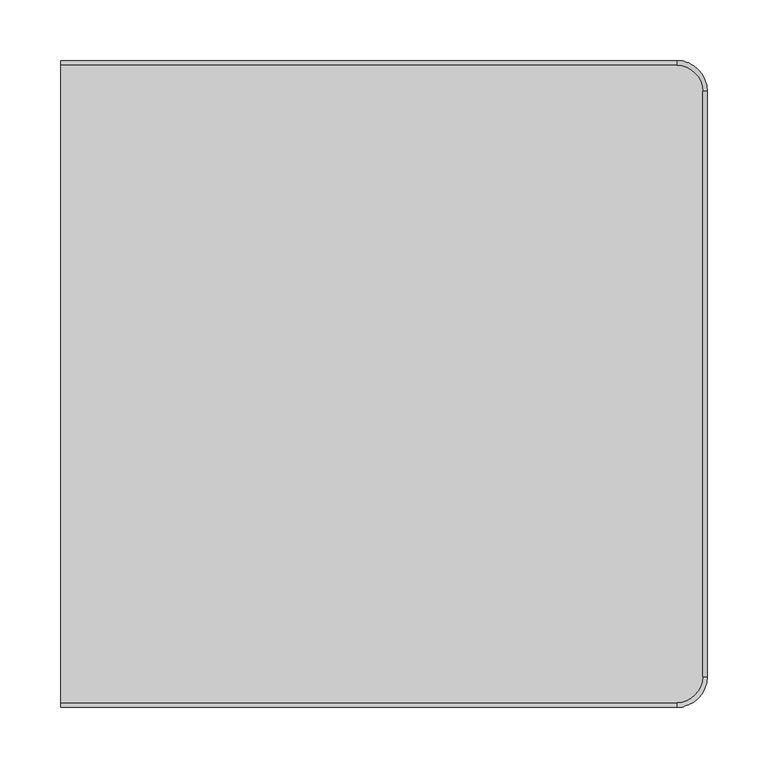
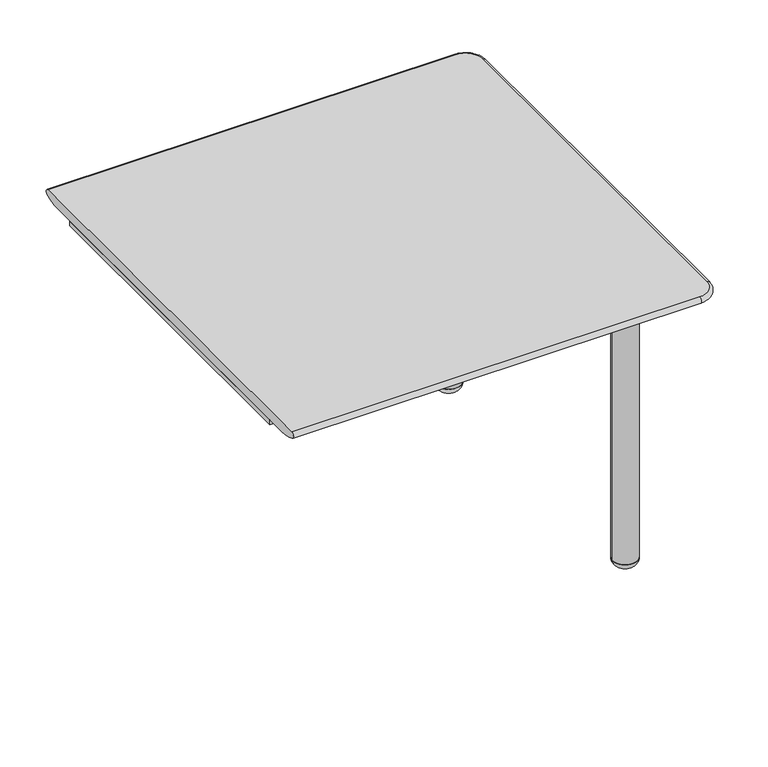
"""IFC4 building model written with IfcOpenShell, lengths in millimetres: furniture geometry, Integra - Coastal Collection - Tide Metal - System Table : Tide - End Table."""

import ifcopenshell
import ifcopenshell.guid

model = None  # the IFC model being written
_history = None  # IfcOwnerHistory: only IFC2X3 demands one
_inside = {}  # id of a spatial element -> (the spatial element, [elements in it])
_under = {}  # id of a project, library or spatial element -> (it, [spatial elements below it])
_declared = {}  # id of a project -> (the project, [libraries it declares])
_typed = {}  # id of a type object -> (the type object, [elements of that type])
_made_of = {}  # id of a material, layer set ... -> (it, [elements and type objects made of it])


def new_model(schema):
    """Start an empty IFC model of exactly this schema.

    Asked for "IFC4X3", IfcOpenShell would pick the latest addendum, in which some entities
    have other attributes; the version numbers below select the first issue.
    IFC2X3 requires an IfcOwnerHistory on every rooted entity: one is made here for all.
    """
    global model, _history
    if schema == "IFC4X3":
        model = ifcopenshell.file(schema_version=(4, 3, 0, 0))
    else:
        model = ifcopenshell.file(schema=schema)
    _inside.clear()
    _under.clear()
    _declared.clear()
    _typed.clear()
    _made_of.clear()
    _history = None
    if model.schema == "IFC2X3":
        org = make("IfcOrganization", Name="unknown")
        user = make(
            "IfcPersonAndOrganization",
            ThePerson=make("IfcPerson", FamilyName="unknown"),
            TheOrganization=org,
        )
        app = make(
            "IfcApplication",
            ApplicationDeveloper=org,
            Version="unknown",
            ApplicationFullName="unknown",
            ApplicationIdentifier="unknown",
        )
        _history = make(
            "IfcOwnerHistory",
            OwningUser=user,
            OwningApplication=app,
            ChangeAction="ADDED",
            CreationDate=0,
        )
    return model


def make(cls, **values):
    """One entity of the class cls with the attributes given. An attribute that is None is left unset."""
    return model.create_entity(
        cls, **{name: value for name, value in values.items() if value is not None}
    )


def rooted(cls, **values):
    """An entity with a GlobalId (a new one), such as an element, a storey or a relation."""
    return make(cls, GlobalId=ifcopenshell.guid.new(), OwnerHistory=_history, **values)


def si_unit(unit_type, name, prefix=None):
    """IfcSIUnit, for example si_unit("LENGTHUNIT", "METRE", prefix="MILLI")."""
    return make("IfcSIUnit", UnitType=unit_type, Prefix=prefix, Name=name)


def assignment(units):
    """IfcUnitAssignment: the units of a project."""
    return None if units is None else make("IfcUnitAssignment", Units=units)


def point(xyz):
    """IfcCartesianPoint."""
    return None if xyz is None else make("IfcCartesianPoint", Coordinates=xyz)


def direction(xyz):
    """IfcDirection."""
    return None if xyz is None else make("IfcDirection", DirectionRatios=xyz)


def frame(location, z_axis=None, x_axis=None):
    """IfcAxis2Placement3D, a coordinate frame: its origin and axes. An axis left out is left unset."""
    return make(
        "IfcAxis2Placement3D",
        Location=point(location),
        Axis=direction(z_axis),
        RefDirection=direction(x_axis),
    )


def frame_2d(location, x_axis=None):
    """IfcAxis2Placement2D, a coordinate frame in the plane: its origin and x axis."""
    return make(
        "IfcAxis2Placement2D", Location=point(location), RefDirection=direction(x_axis)
    )


def origin():
    """The frame at (0, 0, 0) with its axes left unset."""
    return frame((0.0, 0.0, 0.0))


def place(relative_to, where):
    """IfcLocalPlacement: puts the frame where relative to a parent placement (None: the world)."""
    return make(
        "IfcLocalPlacement", PlacementRelTo=relative_to, RelativePlacement=where
    )


def context(
    kind, dimensions, precision=None, world=None, true_north=None, identifier=None
):
    """IfcGeometricRepresentationContext, for example the 3D "Model" context."""
    return make(
        "IfcGeometricRepresentationContext",
        ContextIdentifier=identifier,
        ContextType=kind,
        CoordinateSpaceDimension=dimensions,
        Precision=precision,
        WorldCoordinateSystem=world,
        TrueNorth=true_north,
    )


def project(units=None, contexts=None):
    """IfcProject with its units and contexts."""
    return rooted(
        "IfcProject",
        Name="project",
        RepresentationContexts=contexts,
        UnitsInContext=assignment(units),
    )


def spatial(cls, under=None, at=None, **own):
    """A site, building, storey or space (cls), placed at a placement, below another one or the project."""
    s = rooted(cls, ObjectPlacement=at, **own)
    if under is not None:
        _under.setdefault(under.id(), (under, []))[1].append(s)
    return s


def polyline(points):
    """IfcPolyline through the points."""
    return make("IfcPolyline", Points=[point(p) for p in points])


def circle_curve(where, radius):
    """IfcCircle in the frame where."""
    return make("IfcCircle", Position=where, Radius=radius)


def ellipse_curve(where, semi_axis1, semi_axis2):
    """IfcEllipse in the frame where."""
    return make(
        "IfcEllipse", Position=where, SemiAxis1=semi_axis1, SemiAxis2=semi_axis2
    )


def trimmed(basis, trim1, trim2, sense, master):
    """IfcTrimmedCurve: the piece of a basis curve between two trims."""
    return make(
        "IfcTrimmedCurve",
        BasisCurve=basis,
        Trim1=trim1,
        Trim2=trim2,
        SenseAgreement=sense,
        MasterRepresentation=master,
    )


def segment(curve, same_sense, transition):
    """IfcCompositeCurveSegment."""
    return make(
        "IfcCompositeCurveSegment",
        Transition=transition,
        SameSense=same_sense,
        ParentCurve=curve,
    )


def composite_curve(segments, self_intersect=None):
    """IfcCompositeCurve: segments joined end to end."""
    return make("IfcCompositeCurve", Segments=segments, SelfIntersect=self_intersect)


def outline(outer, holes=None, kind="AREA"):
    """IfcArbitraryClosedProfileDef: a profile drawn as a closed curve; with holes, ...WithVoids."""
    if holes is None:
        return make("IfcArbitraryClosedProfileDef", ProfileType=kind, OuterCurve=outer)
    return make(
        "IfcArbitraryProfileDefWithVoids",
        ProfileType=kind,
        OuterCurve=outer,
        InnerCurves=holes,
    )


def extrude(swept, where, along, depth):
    """IfcExtrudedAreaSolid: the profile swept, set in the frame where, extruded along a direction by depth."""
    return make(
        "IfcExtrudedAreaSolid",
        SweptArea=swept,
        Position=where,
        ExtrudedDirection=direction(along),
        Depth=depth,
    )


def shape(context_of_items, identifier, shape_type, items):
    """IfcShapeRepresentation: the items that make up one representation, for example the "Body"."""
    return make(
        "IfcShapeRepresentation",
        ContextOfItems=context_of_items,
        RepresentationIdentifier=identifier,
        RepresentationType=shape_type,
        Items=items,
    )


def source(mapping_origin, context_of_items, identifier, shape_type, items):
    """IfcRepresentationMap: a shape defined once, which mapped items show again and again."""
    return make(
        "IfcRepresentationMap",
        MappingOrigin=mapping_origin,
        MappedRepresentation=shape(context_of_items, identifier, shape_type, items),
    )


def transform(
    local_origin,
    x_axis=None,
    y_axis=None,
    z_axis=None,
    scale=None,
    scale2=None,
    scale3=None,
    uniform=True,
):
    """IfcCartesianTransformationOperator3D, or its non-uniform kind. x_axis, y_axis, z_axis: its Axis1, 2, 3."""
    if uniform:
        return make(
            "IfcCartesianTransformationOperator3D",
            Axis1=direction(x_axis),
            Axis2=direction(y_axis),
            LocalOrigin=point(local_origin),
            Scale=scale,
            Axis3=direction(z_axis),
        )
    return make(
        "IfcCartesianTransformationOperator3DnonUniform",
        Axis1=direction(x_axis),
        Axis2=direction(y_axis),
        LocalOrigin=point(local_origin),
        Scale=scale,
        Axis3=direction(z_axis),
        Scale2=scale2,
        Scale3=scale3,
    )


def mapped(mapping_source, mapping_target):
    """IfcMappedItem: shows the shape of a source again, moved by a transform."""
    return make(
        "IfcMappedItem", MappingSource=mapping_source, MappingTarget=mapping_target
    )


def made_of(thing, what):
    """Note that an element or type object is made of a material, layer set ...; save() writes the relation."""
    if what is not None:
        _made_of.setdefault(what.id(), (what, []))[1].append(thing)
    return thing


def element(
    cls,
    number,
    at=None,
    inside=None,
    cuts=None,
    type_object=None,
    material=None,
    context=None,
    identifier="Body",
    shape_type=None,
    held_by="IfcProductDefinitionShape",
    body=None,
    shapes=None,
    **own,
):
    """One element of the class cls, such as IfcWall. Its Tag is "e" and its number.

    at: its placement. inside: the storey or other place that contains it. cuts: it is an
    opening in that element (IfcRelVoidsElement). A single representation is given by context,
    identifier, shape_type and body (its items); several are given by shapes. held_by: the class
    of the entity that holds the representations. save() writes the other relations.
    """
    e = rooted(cls, Tag="e%d" % number, ObjectPlacement=at, **own)
    if body is not None:
        shapes = [shape(context, identifier, shape_type, body)]
    if shapes is not None:
        e.Representation = make(held_by, Representations=shapes)
    if inside is not None:
        _inside.setdefault(inside.id(), (inside, []))[1].append(e)
    if cuts is not None:
        rooted(
            "IfcRelVoidsElement", RelatingBuildingElement=cuts, RelatedOpeningElement=e
        )
    if type_object is not None:
        _typed.setdefault(type_object.id(), (type_object, []))[1].append(e)
    return made_of(e, material)


def aggregate(whole, parts):
    """IfcRelAggregates: a whole, such as a stair, and the parts it consists of."""
    return rooted("IfcRelAggregates", RelatingObject=whole, RelatedObjects=parts)


def save(model, path):
    """Write the relations noted so far, then the file.

    IfcRelAggregates (storeys below a building ...), IfcRelContainedInSpatialStructure (elements
    in a storey), IfcRelDefinesByType, IfcRelAssociatesMaterial and IfcRelDeclares: one each for
    every whole, place, type object, material and project.
    """
    for whole, parts in _under.values():
        aggregate(whole, parts)
    for where, things in _inside.values():
        rooted(
            "IfcRelContainedInSpatialStructure",
            RelatedElements=things,
            RelatingStructure=where,
        )
    for kind, things in _typed.values():
        rooted("IfcRelDefinesByType", RelatedObjects=things, RelatingType=kind)
    for what, things in _made_of.values():
        rooted("IfcRelAssociatesMaterial", RelatedObjects=things, RelatingMaterial=what)
    for by, libraries in _declared.values():
        rooted("IfcRelDeclares", RelatingContext=by, RelatedDefinitions=libraries)
    model.write(path)


def plane_surface(at):
    """IfcPlane: the flat surface through the origin of the frame at, square to its z axis."""
    return make("IfcPlane", Position=at)


def cylinder_surface(at, radius):
    """IfcCylindricalSurface: all points at the distance radius from the z axis of the frame at."""
    return make("IfcCylindricalSurface", Position=at, Radius=radius)


def revolved_surface(curve, axis_point, axis_direction):
    """IfcSurfaceOfRevolution: the curve turned about the line through axis_point along axis_direction."""
    return make(
        "IfcSurfaceOfRevolution",
        SweptCurve=make("IfcArbitraryOpenProfileDef", ProfileType="CURVE", Curve=curve),
        AxisPosition=make("IfcAxis1Placement", Location=point(axis_point), Axis=direction(axis_direction)),
    )


def advanced_brep(points, edges, surfaces, faces):
    """IfcAdvancedBrep: a solid bounded by faces that lie on surfaces and meet in shared edges.

    An edge is (start, end): straight between two places in points (the first is 0);
    or (start, end, curve); or (start, end, curve, False) where it runs against its curve.
    A face is (place in surfaces, loops), or (place, loops, False) where it looks against
    its surface's normal. A loop lists edges by number (the first is 1), with a minus sign
    where the edge is run from its end to its start. The first loop is the outer one.
    """
    corners = [point(p) for p in points]
    vertices = [make("IfcVertexPoint", VertexGeometry=c) for c in corners]
    made = []
    for start, end, *more in edges:
        made.append(
            make(
                "IfcEdgeCurve",
                EdgeStart=vertices[start],
                EdgeEnd=vertices[end],
                EdgeGeometry=more[0] if more else make("IfcPolyline", Points=[corners[start], corners[end]]),
                SameSense=more[1] if len(more) > 1 else True,
            )
        )
    hull = []
    for where, loops, *sense in faces:
        bounds = []
        for j, loop in enumerate(loops):
            ring = [make("IfcOrientedEdge", EdgeElement=made[abs(k) - 1], Orientation=k > 0) for k in loop]
            bounds.append(
                make(
                    "IfcFaceOuterBound" if j == 0 else "IfcFaceBound",
                    Bound=make("IfcEdgeLoop", EdgeList=ring),
                    Orientation=True,
                )
            )
        hull.append(make("IfcAdvancedFace", Bounds=bounds, FaceSurface=surfaces[where], SameSense=sense[0] if sense else True))
    return make("IfcAdvancedBrep", Outer=make("IfcClosedShell", CfsFaces=hull))


def furniture_d5846d6e(model_context):
    return source(origin(), model_context, "Body", "SolidModel", [
        advanced_brep(
        [(531.1320625, -241.2840029, 370.0395379), (531.1320625, 241.2840029, 370.0395379), (529.4513415, 241.2840029, 377.589341), (529.4513415, -241.2840029, 377.589341), (507.9973373, 262.7380071, 377.589341), (0.0, 262.7380071, 377.589341), (0.0, -262.7380071, 377.589341), (507.9973373, -262.7380071, 377.589341), (507.9973373, -241.2840029, 364.8893349), (507.9973373, 241.2840029, 364.8893349), (0.0, -264.4187281, 370.0395379), (0.0, 264.4187281, 370.0395379), (0.0, 241.2840029, 364.8893349), (0.0, -241.2840029, 364.8893349), (507.9973373, -264.4187281, 370.0395379), (507.9973373, 264.4187281, 370.0395379)],
        [
            (0, 1),
            (1, 2, circle_curve(frame((529.4513415, 241.2840029, 373.6273602), z_axis=(0.0, -1.0, 0.0), x_axis=(1.0, 0.0, 0.0)), 3.9619808)),
            (2, 3),
            (3, 0, circle_curve(frame((529.4513415, -241.2840029, 373.6273602), z_axis=(0.0, 1.0, 0.0), x_axis=(1.0, 0.0, 0.0)), 3.9619808)),
            (2, 4, circle_curve(frame((507.9973373, 241.2840029, 377.589341), z_axis=(0.0, 0.0, 1.0), x_axis=(1.0, 0.0, 0.0)), 21.4540042)),
            (4, 5),
            (5, 6),
            (6, 7),
            (7, 3, circle_curve(frame((507.9973373, -241.2840029, 377.589341), z_axis=(0.0, 0.0, 1.0), x_axis=(1.0, 0.0, 0.0)), 21.4540042)),
            (0, 8, circle_curve(frame((507.9973373, -241.2840029, 419.4250596), z_axis=(0.0, 1.0, 0.0), x_axis=(1.0, 0.0, 0.0)), 54.5357246)),
            (8, 9),
            (9, 1, circle_curve(frame((507.9973373, 241.2840029, 419.4250596), z_axis=(0.0, -1.0, 0.0), x_axis=(1.0, 0.0, 0.0)), 54.5357246)),
            (10, 6, circle_curve(frame((0.0, -262.7380071, 373.6273602), z_axis=(-1.0, 0.0, 0.0), x_axis=(0.0, -1.0, 0.0)), 3.9619808)),
            (5, 11, circle_curve(frame((0.0, 262.7380071, 373.6273602), z_axis=(-1.0, 0.0, 0.0), x_axis=(0.0, 1.0, 0.0)), 3.9619808)),
            (11, 12, circle_curve(frame((0.0, 241.2840029, 419.4250596), z_axis=(-1.0, 0.0, 0.0), x_axis=(0.0, 1.0, 0.0)), 54.5357246)),
            (12, 13),
            (13, 10, circle_curve(frame((0.0, -241.2840029, 419.4250596), z_axis=(-1.0, 0.0, 0.0), x_axis=(0.0, -1.0, 0.0)), 54.5357246)),
            (13, 8),
            (8, 14, circle_curve(frame((507.9973373, -241.2840029, 419.4250596), z_axis=(-1.0, 0.0, 0.0), x_axis=(0.0, -1.0, 0.0)), 54.5357246)),
            (14, 10),
            (12, 9),
            (11, 15),
            (15, 9, circle_curve(frame((507.9973373, 241.2840029, 419.4250596), z_axis=(-1.0, 0.0, 0.0), x_axis=(0.0, 1.0, 0.0)), 54.5357246)),
            (4, 15, circle_curve(frame((507.9973373, 262.7380071, 373.6273602), z_axis=(-1.0, 0.0, 0.0), x_axis=(0.0, 1.0, 0.0)), 3.9619808)),
            (14, 7, circle_curve(frame((507.9973373, -262.7380071, 373.6273602), z_axis=(-1.0, 0.0, 0.0), x_axis=(0.0, -1.0, 0.0)), 3.9619808)),
            (15, 1, circle_curve(frame((507.9973373, 241.2840029, 370.0395379), z_axis=(0.0, 0.0, -1.0), x_axis=(1.0, 0.0, 0.0)), 23.1347252)),
            (0, 14, circle_curve(frame((507.9973373, -241.2840029, 370.0395379), z_axis=(0.0, 0.0, -1.0), x_axis=(1.0, 0.0, 0.0)), 23.1347252)),
        ],
        [
            cylinder_surface(frame((529.4513415, 241.2840029, 373.6273602), z_axis=(0.0, -1.0, 0.0), x_axis=(1.0, 0.0, 0.0)), 3.9619808),
            plane_surface(frame((529.4513415, -241.2840029, 377.589341), z_axis=(0.0, 0.0, 1.0), x_axis=(0.0, 1.0, 0.0))),
            cylinder_surface(frame((507.9973373, 241.2840029, 419.4250596), z_axis=(0.0, -1.0, 0.0), x_axis=(1.0, 0.0, 0.0)), 54.5357246),
            plane_surface(frame((0.0, -295.8197275, 419.4250596), z_axis=(-1.0, 0.0, 0.0), x_axis=(0.0, 0.0, 1.0))),
            cylinder_surface(frame((0.0, -241.2840029, 419.4250596), z_axis=(1.0, 0.0, 0.0), x_axis=(0.0, -1.0, 0.0)), 54.5357246),
            plane_surface(frame((507.9973373, -241.2840029, 364.8893349), z_axis=(0.0, 0.0, -1.0), x_axis=(-1.0, 0.0, 0.0))),
            cylinder_surface(frame((0.0, 241.2840029, 419.4250596), z_axis=(1.0, 0.0, 0.0), x_axis=(0.0, 1.0, 0.0)), 54.5357246),
            cylinder_surface(frame((0.0, 262.7380071, 373.6273602), z_axis=(1.0, 0.0, 0.0), x_axis=(0.0, 1.0, 0.0)), 3.9619808),
            cylinder_surface(frame((0.0, -262.7380071, 373.6273602), z_axis=(1.0, 0.0, 0.0), x_axis=(0.0, -1.0, 0.0)), 3.9619808),
            revolved_surface(trimmed(ellipse_curve(frame((507.9973373, 241.2840029, 419.4250596), z_axis=(0.0, -1.0, 0.0), x_axis=(1.0, 0.0, 0.0)), 54.5357246, 54.5357246), [point((507.9973373, 241.2840029, 364.8893349))], [point((531.1320625, 241.2840029, 370.0395379))], True, "CARTESIAN"), (507.9973373, 241.2840029, 377.589341), (0.0, 0.0, 1.0)),
            revolved_surface(trimmed(ellipse_curve(frame((529.4513415, 241.2840029, 373.6273602), z_axis=(0.0, -1.0, 0.0), x_axis=(1.0, 0.0, 0.0)), 3.9619808, 3.9619808), [point((531.1320625, 241.2840029, 370.0395379))], [point((529.4513415, 241.2840029, 377.589341))], True, "CARTESIAN"), (507.9973373, 241.2840029, 377.589341), (0.0, 0.0, 1.0)),
            revolved_surface(trimmed(ellipse_curve(frame((507.9973373, -241.2840029, 419.4250596), z_axis=(0.0, 1.0, 0.0), x_axis=(1.0, 0.0, 0.0)), 54.5357246, 54.5357246), [point((531.1320625, -241.2840029, 370.0395379))], [point((507.9973373, -241.2840029, 364.8893349))], True, "CARTESIAN"), (507.9973373, -241.2840029, 377.589341), (0.0, 0.0, -1.0)),
            revolved_surface(trimmed(ellipse_curve(frame((529.4513415, -241.2840029, 373.6273602), z_axis=(0.0, 1.0, 0.0), x_axis=(1.0, 0.0, 0.0)), 3.9619808, 3.9619808), [point((529.4513415, -241.2840029, 377.589341))], [point((531.1320625, -241.2840029, 370.0395379))], True, "CARTESIAN"), (507.9973373, -241.2840029, 377.589341), (0.0, 0.0, -1.0)),
        ],
        [
            (0, [[1, 2, 3, 4]]),
            (1, [[-3, 5, 6, 7, 8, 9]]),
            (2, [[-1, 10, 11, 12]]),
            (3, [[13, -7, 14, 15, 16, 17]]),
            (4, [[-17, 18, 19, 20]]),
            (5, [[-16, 21, -11, -18]]),
            (6, [[-15, 22, 23, -21]]),
            (7, [[-14, -6, 24, -22]]),
            (8, [[-13, -20, 25, -8]]),
            (9, [[26, -12, -23]]),
            (10, [[-26, -24, -5, -2]]),
            (11, [[27, -19, -10]]),
            (12, [[-27, -4, -9, -25]]),
        ],
    ),
        extrude(outline(composite_curve([segment(polyline([(0.0, 215.8999879), (456.4385059, 215.8999879)]), True, "CONTINUOUS"), segment(trimmed(circle_curve(frame_2d((456.4385059, 189.7384938)), 26.1614941), [point((456.4385059, 215.8999879))], [point((482.6, 189.7384938))], False, "CARTESIAN"), True, "CONTINUOUS"), segment(polyline([(482.6, 189.7384938), (482.6, -189.7062379)]), True, "CONTINUOUS"), segment(trimmed(circle_curve(frame_2d((456.40625, -189.7062379)), 26.19375), [point((482.6, -189.7062379))], [point((456.40625, -215.8999879))], False, "CARTESIAN"), True, "CONTINUOUS"), segment(polyline([(456.40625, -215.8999879), (0.0, -215.8999879), (0.0, 215.8999879)]), True, "CONTINUOUS")], self_intersect=False)), frame((0.0, 0.0, 358.5393349), z_axis=(0.0, 0.0, 1.0), x_axis=(1.0, 0.0, 0.0)), (0.0, 0.0, 1.0), 6.35),
        advanced_brep(
        [(456.9693939, -190.5000363, 9.5239742), (441.325, -190.5000363, 9.5239742), (472.6137878, -190.5000363, 9.5239742), (450.85, -190.5000363, -0.0010258), (463.0887878, -190.5000363, -0.0010258), (456.9693939, -190.5000363, -0.0010258)],
        [
            (0, 1),
            (1, 2, circle_curve(frame((456.9693939, -190.5000363, 9.5239742), z_axis=(0.0, 0.0, 1.0), x_axis=(-1.0, 0.0, 0.0)), 15.6443939)),
            (2, 0),
            (2, 1, circle_curve(frame((456.9693939, -190.5000363, 9.5239742), z_axis=(0.0, 0.0, 1.0), x_axis=(-1.0, 0.0, 0.0)), 15.6443939)),
            (1, 3, circle_curve(frame((450.85, -190.5000363, 9.5239742), z_axis=(0.0, -1.0, 0.0), x_axis=(1.0, 0.0, 0.0)), 9.525)),
            (3, 4, circle_curve(frame((456.9693939, -190.5000363, -0.0010258), z_axis=(0.0, 0.0, 1.0), x_axis=(-1.0, 0.0, 0.0)), 6.1193939)),
            (4, 2, circle_curve(frame((463.0887878, -190.5000363, 9.5239742), z_axis=(0.0, -1.0, 0.0), x_axis=(-1.0, 0.0, 0.0)), 9.525)),
            (4, 3, circle_curve(frame((456.9693939, -190.5000363, -0.0010258), z_axis=(0.0, 0.0, 1.0), x_axis=(-1.0, 0.0, 0.0)), 6.1193939)),
            (3, 5),
            (5, 4),
        ],
        [
            plane_surface(frame((456.9693939, -190.5000363, 9.5239742), z_axis=(0.0, 0.0, 1.0), x_axis=(-1.0, 0.0, 0.0))),
            revolved_surface(trimmed(ellipse_curve(frame((450.85, -190.5000363, 9.5239742), z_axis=(0.0, 1.0, 0.0), x_axis=(1.0, 0.0, 0.0)), 9.525, 9.525), [point((450.85, -190.5000363, -0.0010258))], [point((441.325, -190.5000363, 9.5239742))], True, "CARTESIAN"), (456.9693939, -190.5000363, -0.0010258), (0.0, 0.0, 1.0)),
            plane_surface(frame((456.9693939, -190.5000363, -0.0010258), z_axis=(0.0, 0.0, -1.0), x_axis=(-1.0, 0.0, 0.0))),
        ],
        [
            (0, [[1, 2, 3]]),
            (0, [[-3, 4, -1]]),
            (1, [[-2, 5, 6, 7]]),
            (1, [[-4, -7, 8, -5]]),
            (2, [[-6, 9, 10]]),
            (2, [[-8, -10, -9]]),
        ],
    ),
        advanced_brep(
        [(472.6137878, 190.5000363, 9.5239742), (441.325, 190.5000363, 9.5239742), (456.9693939, 190.5000363, 9.5239742), (463.0887878, 190.5000363, -0.0010258), (450.85, 190.5000363, -0.0010258), (456.9693939, 190.5000363, -0.0010258)],
        [
            (0, 1, circle_curve(frame((456.9693939, 190.5000363, 9.5239742), z_axis=(0.0, 0.0, 1.0), x_axis=(-1.0, 0.0, 0.0)), 15.6443939)),
            (1, 2),
            (2, 0),
            (1, 0, circle_curve(frame((456.9693939, 190.5000363, 9.5239742), z_axis=(0.0, 0.0, 1.0), x_axis=(-1.0, 0.0, 0.0)), 15.6443939)),
            (3, 4, circle_curve(frame((456.9693939, 190.5000363, -0.0010258), z_axis=(0.0, 0.0, 1.0), x_axis=(-1.0, 0.0, 0.0)), 6.1193939)),
            (4, 1, circle_curve(frame((450.85, 190.5000363, 9.5239742), z_axis=(0.0, 1.0, 0.0), x_axis=(1.0, 0.0, 0.0)), 9.525)),
            (0, 3, circle_curve(frame((463.0887878, 190.5000363, 9.5239742), z_axis=(0.0, 1.0, 0.0), x_axis=(-1.0, 0.0, 0.0)), 9.525)),
            (4, 3, circle_curve(frame((456.9693939, 190.5000363, -0.0010258), z_axis=(0.0, 0.0, 1.0), x_axis=(-1.0, 0.0, 0.0)), 6.1193939)),
            (5, 4),
            (3, 5),
        ],
        [
            plane_surface(frame((456.9693939, 190.5000363, 9.5239742), z_axis=(0.0, 0.0, 1.0), x_axis=(-1.0, 0.0, 0.0))),
            revolved_surface(trimmed(ellipse_curve(frame((450.85, 190.5000363, 9.5239742), z_axis=(0.0, -1.0, 0.0), x_axis=(1.0, 0.0, 0.0)), 9.525, 9.525), [point((441.325, 190.5000363, 9.5239742))], [point((450.85, 190.5000363, -0.0010258))], True, "CARTESIAN"), (456.9693939, 190.5000363, -0.0010258), (0.0, 0.0, -1.0)),
            plane_surface(frame((456.9693939, 190.5000363, -0.0010258), z_axis=(0.0, 0.0, -1.0), x_axis=(-1.0, 0.0, 0.0))),
        ],
        [
            (0, [[1, 2, 3]]),
            (0, [[4, -3, -2]]),
            (1, [[5, 6, -1, 7]]),
            (1, [[8, -7, -4, -6]]),
            (2, [[9, -5, 10]]),
            (2, [[-10, -8, -9]]),
        ],
    ),
        extrude(outline(composite_curve([segment(trimmed(circle_curve(frame_2d((456.9693939, -190.4999879)), 15.6443939), [point((441.325, -190.4999879))], [point((472.6137878, -190.4999879))], False, "CARTESIAN"), True, "CONTINUOUS"), segment(trimmed(circle_curve(frame_2d((456.9693939, -190.4999879)), 15.6443939), [point((472.6137878, -190.4999879))], [point((441.325, -190.4999879))], False, "CARTESIAN"), True, "CONTINUOUS")], self_intersect=False)), frame((0.0, 0.0, 9.5366915), z_axis=(0.0, 0.0, 1.0), x_axis=(1.0, 0.0, 0.0)), (0.0, 0.0, 1.0), 349.0026435),
        extrude(outline(composite_curve([segment(trimmed(circle_curve(frame_2d((456.9693939, 190.4999879)), 15.6443939), [point((441.325, 190.4999879))], [point((472.6137878, 190.4999879))], False, "CARTESIAN"), True, "CONTINUOUS"), segment(trimmed(circle_curve(frame_2d((456.9693939, 190.4999879)), 15.6443939), [point((472.6137878, 190.4999879))], [point((441.325, 190.4999879))], False, "CARTESIAN"), True, "CONTINUOUS")], self_intersect=False)), frame((0.0, 0.0, 9.5366915), z_axis=(0.0, 0.0, 1.0), x_axis=(1.0, 0.0, 0.0)), (0.0, 0.0, 1.0), 349.0026435),
    ])


if __name__ == "__main__":
    model = new_model("IFC4")
    model_context = context("Model", 3, world=origin())
    ifc_project = project(units=[si_unit("LENGTHUNIT", "METRE", prefix="MILLI")], contexts=[model_context])
    site = spatial("IfcSite", under=ifc_project)
    building = spatial("IfcBuilding", under=site)
    placement = place(None, origin())
    furniture_shape = furniture_d5846d6e(model_context)
    element("IfcFurniture", 1, ObjectType="Integra - Coastal Collection - Tide Metal - System Table : Tide - End Table", at=placement, inside=building, context=model_context, shape_type="MappedRepresentation", body=[
        mapped(furniture_shape, transform((0.0, 0.0, 0.0), x_axis=(1.0, 0.0, 0.0), y_axis=(0.0, 1.0, 0.0), z_axis=(0.0, 0.0, 1.0))),
    ])
    save(model, "model.ifc")
